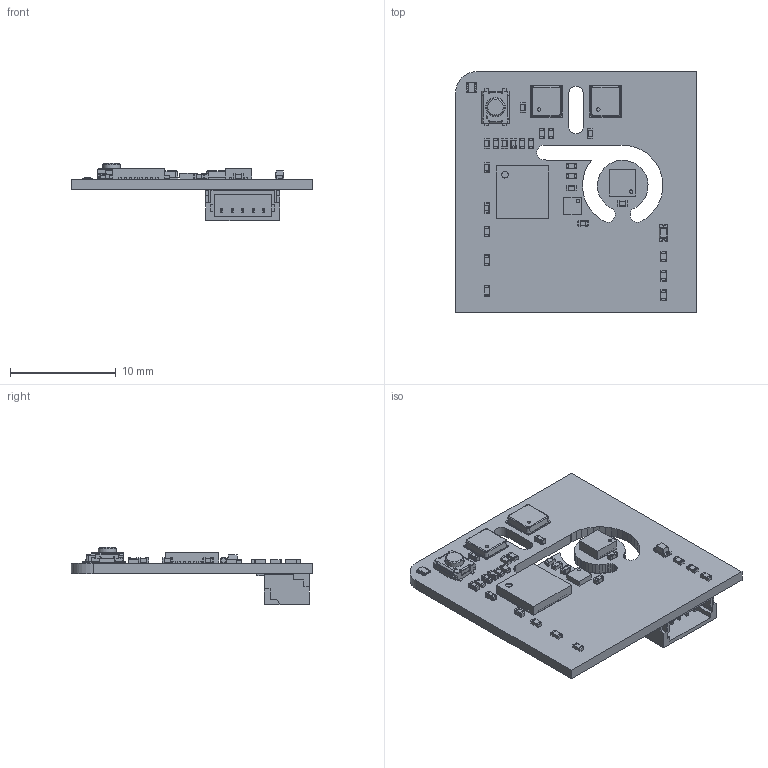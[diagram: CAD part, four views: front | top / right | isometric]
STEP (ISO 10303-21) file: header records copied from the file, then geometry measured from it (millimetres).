
FILE_DESCRIPTION(('Open CASCADE Model'),'2;1');
FILE_NAME('Open CASCADE Shape Model','2024-01-29T12:12:06',('Author'),( 'Open CASCADE'),'Open CASCADE STEP processor 7.5','Open CASCADE 7.5' ,'Unknown');
FILE_SCHEMA(('AUTOMOTIVE_DESIGN { 1 0 10303 214 1 1 1 1 }'));
Length unit declared in the file: millimetre
Products named in the file (71): PCB; Board; Open CASCADE STEP translator 7.5 1.1.1; U2; ZMOD4410; R5; RES-0402; R14; R13; R12; R1; U5; 9012666352; Body; smallPine; 10672494304; Cylinder; C10; CAP-0402; C1; J5; SM05B-SRSS-TB; U4; 9012677392; Open CASCADE STEP translator 7.5 10.1; Open CASCADE STEP translator 7.5 10.2.1; Thermal Shape; Pin Shape; Open CASCADE STEP translator 7.5 10.4.1; U3; 9012676192; Open CASCADE STEP translator 7.5 22.1; Open CASCADE STEP translator 7.5 22.2.1; Open CASCADE STEP translator 7.5 22.4.1; U1; R11; R10; R9; R8; R7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
Assembly tree (133 placements, depth 5):
  PCB
    Board
      Open CASCADE STEP translator 7.5 1.1.1
    U2
      ZMOD4410
    R5
      RES-0402
    R14
      RES-0402
    R13
      RES-0402
    R12
      RES-0402
    R1
      RES-0402
    U5
      9012666352
        Body
        smallPine  x4
      10672494304
        Cylinder
    C10
      CAP-0402
    C1
      CAP-0402
    J5
      SM05B-SRSS-TB
    U4
      9012677392
        Open CASCADE STEP translator 7.5 10.1
        Body
          Open CASCADE STEP translator 7.5 10.2.1
        Thermal Shape
        Pin Shape  x32
          Open CASCADE STEP translator 7.5 10.4.1
    U3
      9012676192
        Open CASCADE STEP translator 7.5 22.1
        Body
          Open CASCADE STEP translator 7.5 22.2.1
        Thermal Shape
        Pin Shape  x8
          Open CASCADE STEP translator 7.5 22.4.1
    U1
      ZMOD4410
    R11
      RES-0402
    R10
      RES-0402
    R9
      RES-0402
    R8
      RES-0402
    R7
      RES-0402
    R4
      RES-0402
    R3
      RES-0402
    R2
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Bounding box: 22.86 x 22.86 x 5.43 mm (x, y, z)
Volume: 581.4 mm3; surface area: 1645.7 mm2
Topology: 98 solids, 101 shells, 2700 faces, 6625 edges, 4054 vertices
Faces by surface type: plane 1921, cylinder 505, bspline 146, sphere 91, torus 25, cone 12
Full cylindrical faces by diameter (mm): 0.07 x1, 0.3 x1, 0.312 x1, 0.6 x1, 0.625 x1, 1.3 x1, 1.7 x1, 1.85 x1
Entity records: 42792 total; most frequent: CARTESIAN_POINT 7739, ORIENTED_EDGE 6192, DIRECTION 5875, EDGE_CURVE 3097, LINE 2415, VECTOR 2415, VERTEX_POINT 2018, AXIS2_PLACEMENT_3D 1730
